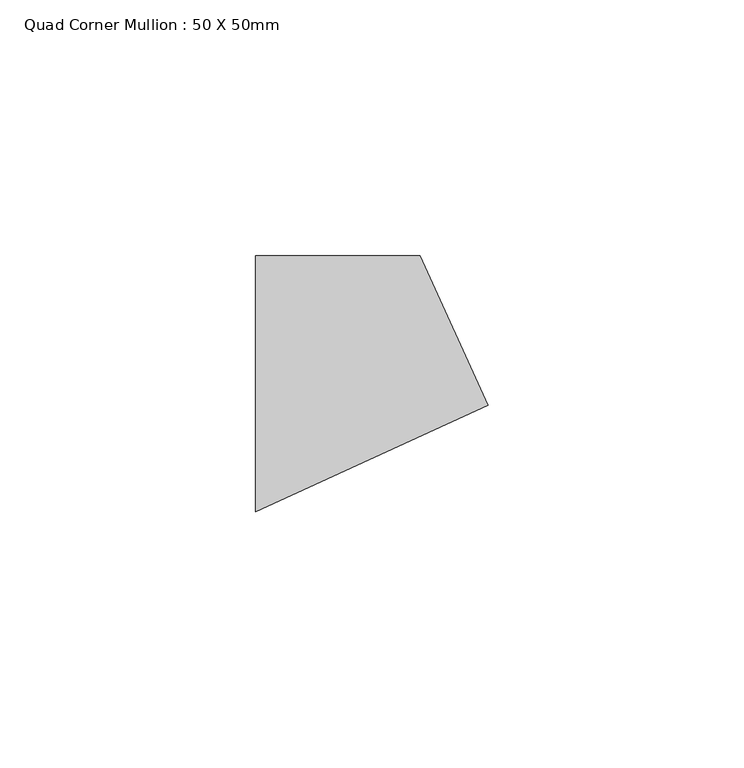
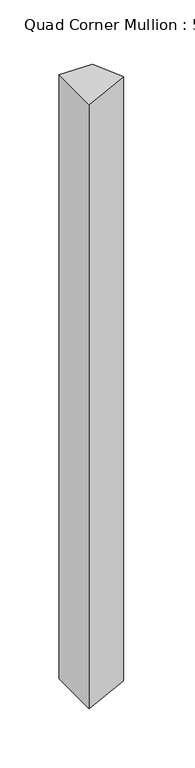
"""IFC4 building model written with IfcOpenShell, lengths in millimetres: member geometry, Quad Corner Mullion : 50 X 50mm."""

from ifc_helpers import new_model, si_unit, frame, origin, place, context, project, spatial, polyline, outline, extrude, source, transform, mapped, element, save


def quad_corner_mullion_50_x_50mm_323f2766(model_context):
    return source(origin(), model_context, "Body", "SweptSolid", [
        extrude(outline(polyline([(29.4125559, -4.1926582), (-16.0523154, -25.0), (-16.0523154, 25.0), (16.0523154, 25.0), (29.4125559, -4.1926582)])), frame((0.0, 0.0, -620.0), z_axis=(0.0, 0.0, 1.0), x_axis=(1.0, 0.0, 0.0)), (0.0, 0.0, 1.0), 620.0),
    ])


if __name__ == "__main__":
    model = new_model("IFC4")
    model_context = context("Model", 3, world=origin())
    ifc_project = project(units=[si_unit("LENGTHUNIT", "METRE", prefix="MILLI")], contexts=[model_context])
    site = spatial("IfcSite", under=ifc_project)
    building = spatial("IfcBuilding", under=site)
    placement = place(None, origin())
    quad_corner_mullion_50_x_50mm_shape = quad_corner_mullion_50_x_50mm_323f2766(model_context)
    element("IfcMember", 1, ObjectType="Quad Corner Mullion : 50 X 50mm", at=placement, inside=building, context=model_context, shape_type="MappedRepresentation", body=[
        mapped(quad_corner_mullion_50_x_50mm_shape, transform((0.0, 0.0, 0.0), x_axis=(1.0, 0.0, 0.0), y_axis=(0.0, 1.0, 0.0), z_axis=(0.0, 0.0, 1.0))),
    ])
    save(model, "model.ifc")
